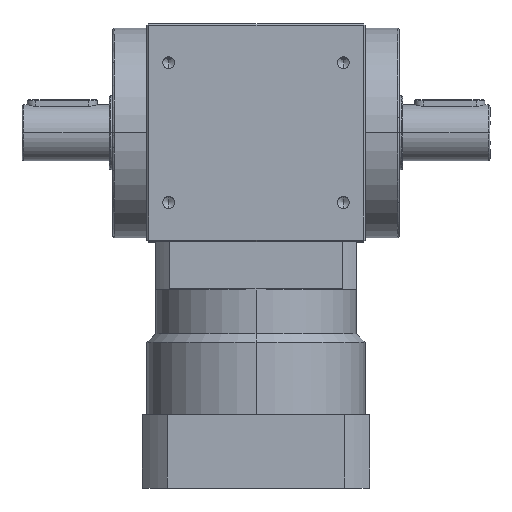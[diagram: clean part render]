
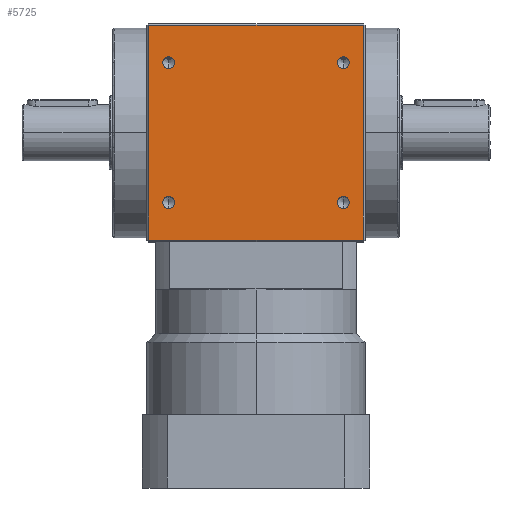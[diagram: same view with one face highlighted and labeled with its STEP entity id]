
A CAD part, top view. The second image highlights one B-rep face of the part: STEP entity #5725.
In plain terms, the highlighted planar face has unit normal (0, 0, 1).
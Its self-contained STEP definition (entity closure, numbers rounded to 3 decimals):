
#146 = CARTESIAN_POINT ( 'NONE',  ( -61.5, 0., 62.5 ) ) ;
#244 = EDGE_LOOP ( 'NONE', ( #6701, #7083 ) ) ;
#269 = VECTOR ( 'NONE', #3131, 1000. ) ;
#340 = AXIS2_PLACEMENT_3D ( 'NONE', #2649, #6945, #1886 ) ;
#757 = VERTEX_POINT ( 'NONE', #3047 ) ;
#848 = EDGE_CURVE ( 'NONE', #8067, #757, #3989, .T. ) ;
#1107 = FACE_OUTER_BOUND ( 'NONE', #7711, .T. ) ;
#1326 = VERTEX_POINT ( 'NONE', #9213 ) ;
#1429 = ORIENTED_EDGE ( 'NONE', *, *, #9268, .F. ) ;
#1431 = DIRECTION ( 'NONE',  ( 0., 0., -1. ) ) ;
#1488 = CIRCLE ( 'NONE', #8791, 3.4 ) ;
#1585 = AXIS2_PLACEMENT_3D ( 'NONE', #5110, #9271, #4406 ) ;
#1756 = EDGE_CURVE ( 'NONE', #6692, #8302, #1777, .T. ) ;
#1777 = LINE ( 'NONE', #6120, #9119 ) ;
#1886 = DIRECTION ( 'NONE',  ( 0., -1., 0. ) ) ;
#1898 = EDGE_CURVE ( 'NONE', #6298, #8146, #3313, .T. ) ;
#2010 = AXIS2_PLACEMENT_3D ( 'NONE', #2126, #2124, #2115 ) ;
#2115 = DIRECTION ( 'NONE',  ( 0., -1., 0. ) ) ;
#2124 = DIRECTION ( 'NONE',  ( 0., 0., -1. ) ) ;
#2126 = CARTESIAN_POINT ( 'NONE',  ( 50., 40., 62.5 ) ) ;
#2135 = CARTESIAN_POINT ( 'NONE',  ( -61.5, 61.5, 62.5 ) ) ;
#2142 = ORIENTED_EDGE ( 'NONE', *, *, #9168, .T. ) ;
#2182 = ORIENTED_EDGE ( 'NONE', *, *, #5234, .F. ) ;
#2279 = LINE ( 'NONE', #2399, #269 ) ;
#2345 = ORIENTED_EDGE ( 'NONE', *, *, #848, .T. ) ;
#2388 = DIRECTION ( 'NONE',  ( 0., -1., 0. ) ) ;
#2399 = CARTESIAN_POINT ( 'NONE',  ( 0., -61.5, 62.5 ) ) ;
#2463 = EDGE_CURVE ( 'NONE', #8146, #6298, #4850, .T. ) ;
#2500 = AXIS2_PLACEMENT_3D ( 'NONE', #4667, #8866, #3975 ) ;
#2649 = CARTESIAN_POINT ( 'NONE',  ( -50., 40., 62.5 ) ) ;
#2824 = CARTESIAN_POINT ( 'NONE',  ( -50., -43.4, 62.5 ) ) ;
#3047 = CARTESIAN_POINT ( 'NONE',  ( 50., 36.6, 62.5 ) ) ;
#3123 = FACE_BOUND ( 'NONE', #9130, .T. ) ;
#3124 = ORIENTED_EDGE ( 'NONE', *, *, #5931, .F. ) ;
#3131 = DIRECTION ( 'NONE',  ( -1., 0., 0. ) ) ;
#3149 = CARTESIAN_POINT ( 'NONE',  ( 50., 40., 62.5 ) ) ;
#3268 = CARTESIAN_POINT ( 'NONE',  ( 50., -36.6, 62.5 ) ) ;
#3281 = VERTEX_POINT ( 'NONE', #7762 ) ;
#3313 = CIRCLE ( 'NONE', #8361, 3.4 ) ;
#3383 = AXIS2_PLACEMENT_3D ( 'NONE', #3558, #8485, #4278 ) ;
#3428 = DIRECTION ( 'NONE',  ( -1., 0., 0. ) ) ;
#3558 = CARTESIAN_POINT ( 'NONE',  ( -50., -40., 62.5 ) ) ;
#3684 = CIRCLE ( 'NONE', #340, 3.4 ) ;
#3863 = CARTESIAN_POINT ( 'NONE',  ( -61.5, -61.5, 62.5 ) ) ;
#3895 = DIRECTION ( 'NONE',  ( 0., 1., 0. ) ) ;
#3975 = DIRECTION ( 'NONE',  ( -1., 0., 0. ) ) ;
#3989 = CIRCLE ( 'NONE', #2010, 3.4 ) ;
#4023 = DIRECTION ( 'NONE',  ( 0., -1., 0. ) ) ;
#4064 = DIRECTION ( 'NONE',  ( 0., -1., 0. ) ) ;
#4065 = DIRECTION ( 'NONE',  ( 0., 0., 1. ) ) ;
#4073 = CARTESIAN_POINT ( 'NONE',  ( 50., -40., 62.5 ) ) ;
#4273 = CIRCLE ( 'NONE', #3383, 3.4 ) ;
#4278 = DIRECTION ( 'NONE',  ( 0., -1., 0. ) ) ;
#4313 = EDGE_CURVE ( 'NONE', #757, #8067, #1488, .T. ) ;
#4406 = DIRECTION ( 'NONE',  ( 0., -1., 0. ) ) ;
#4472 = VERTEX_POINT ( 'NONE', #2824 ) ;
#4667 = CARTESIAN_POINT ( 'NONE',  ( 0., 0., 62.5 ) ) ;
#4696 = EDGE_CURVE ( 'NONE', #4472, #3281, #4273, .T. ) ;
#4823 = VERTEX_POINT ( 'NONE', #2135 ) ;
#4850 = CIRCLE ( 'NONE', #8332, 3.4 ) ;
#5025 = FACE_BOUND ( 'NONE', #7139, .T. ) ;
#5110 = CARTESIAN_POINT ( 'NONE',  ( -50., -40., 62.5 ) ) ;
#5233 = VERTEX_POINT ( 'NONE', #3863 ) ;
#5234 = EDGE_CURVE ( 'NONE', #8302, #5233, #2279, .T. ) ;
#5241 = CARTESIAN_POINT ( 'NONE',  ( 50., 43.4, 62.5 ) ) ;
#5313 = ORIENTED_EDGE ( 'NONE', *, *, #4313, .T. ) ;
#5460 = ORIENTED_EDGE ( 'NONE', *, *, #1756, .F. ) ;
#5474 = CARTESIAN_POINT ( 'NONE',  ( 61.5, 61.5, 62.5 ) ) ;
#5508 = CARTESIAN_POINT ( 'NONE',  ( -50., 43.4, 62.5 ) ) ;
#5556 = LINE ( 'NONE', #9014, #9240 ) ;
#5614 = EDGE_CURVE ( 'NONE', #1326, #8001, #3684, .T. ) ;
#5654 = EDGE_CURVE ( 'NONE', #6692, #4823, #5556, .T. ) ;
#5681 = ORIENTED_EDGE ( 'NONE', *, *, #5654, .T. ) ;
#5725 = ADVANCED_FACE ( 'NONE', ( #8745, #6922, #3123, #5025, #1107 ), #8922, .F. ) ;
#5825 = CARTESIAN_POINT ( 'NONE',  ( -50., 40., 62.5 ) ) ;
#5931 = EDGE_CURVE ( 'NONE', #3281, #4472, #8841, .T. ) ;
#6120 = CARTESIAN_POINT ( 'NONE',  ( 61.5, 0., 62.5 ) ) ;
#6298 = VERTEX_POINT ( 'NONE', #9042 ) ;
#6378 = ORIENTED_EDGE ( 'NONE', *, *, #5614, .T. ) ;
#6440 = EDGE_LOOP ( 'NONE', ( #8751, #3124 ) ) ;
#6527 = DIRECTION ( 'NONE',  ( 0., -1., 0. ) ) ;
#6595 = CIRCLE ( 'NONE', #7888, 3.4 ) ;
#6692 = VERTEX_POINT ( 'NONE', #5474 ) ;
#6701 = ORIENTED_EDGE ( 'NONE', *, *, #1898, .F. ) ;
#6709 = LINE ( 'NONE', #146, #8349 ) ;
#6887 = CARTESIAN_POINT ( 'NONE',  ( 61.5, -61.5, 62.5 ) ) ;
#6922 = FACE_BOUND ( 'NONE', #6440, .T. ) ;
#6945 = DIRECTION ( 'NONE',  ( 0., 0., -1. ) ) ;
#7083 = ORIENTED_EDGE ( 'NONE', *, *, #2463, .F. ) ;
#7139 = EDGE_LOOP ( 'NONE', ( #6378, #2142 ) ) ;
#7430 = DIRECTION ( 'NONE',  ( 0., 0., -1. ) ) ;
#7711 = EDGE_LOOP ( 'NONE', ( #2182, #5460, #5681, #1429 ) ) ;
#7762 = CARTESIAN_POINT ( 'NONE',  ( -50., -36.6, 62.5 ) ) ;
#7888 = AXIS2_PLACEMENT_3D ( 'NONE', #5825, #1431, #6527 ) ;
#8001 = VERTEX_POINT ( 'NONE', #5508 ) ;
#8067 = VERTEX_POINT ( 'NONE', #5241 ) ;
#8146 = VERTEX_POINT ( 'NONE', #3268 ) ;
#8302 = VERTEX_POINT ( 'NONE', #6887 ) ;
#8332 = AXIS2_PLACEMENT_3D ( 'NONE', #4073, #4065, #4064 ) ;
#8349 = VECTOR ( 'NONE', #3895, 1000. ) ;
#8361 = AXIS2_PLACEMENT_3D ( 'NONE', #8828, #8793, #8778 ) ;
#8485 = DIRECTION ( 'NONE',  ( 0., 0., 1. ) ) ;
#8745 = FACE_BOUND ( 'NONE', #244, .T. ) ;
#8751 = ORIENTED_EDGE ( 'NONE', *, *, #4696, .F. ) ;
#8778 = DIRECTION ( 'NONE',  ( 0., -1., 0. ) ) ;
#8791 = AXIS2_PLACEMENT_3D ( 'NONE', #3149, #7430, #2388 ) ;
#8793 = DIRECTION ( 'NONE',  ( 0., 0., 1. ) ) ;
#8828 = CARTESIAN_POINT ( 'NONE',  ( 50., -40., 62.5 ) ) ;
#8841 = CIRCLE ( 'NONE', #1585, 3.4 ) ;
#8866 = DIRECTION ( 'NONE',  ( 0., 0., -1. ) ) ;
#8922 = PLANE ( 'NONE',  #2500 ) ;
#9014 = CARTESIAN_POINT ( 'NONE',  ( 0., 61.5, 62.5 ) ) ;
#9042 = CARTESIAN_POINT ( 'NONE',  ( 50., -43.4, 62.5 ) ) ;
#9119 = VECTOR ( 'NONE', #4023, 1000. ) ;
#9130 = EDGE_LOOP ( 'NONE', ( #5313, #2345 ) ) ;
#9168 = EDGE_CURVE ( 'NONE', #8001, #1326, #6595, .T. ) ;
#9213 = CARTESIAN_POINT ( 'NONE',  ( -50., 36.6, 62.5 ) ) ;
#9240 = VECTOR ( 'NONE', #3428, 1000. ) ;
#9268 = EDGE_CURVE ( 'NONE', #5233, #4823, #6709, .T. ) ;
#9271 = DIRECTION ( 'NONE',  ( 0., 0., 1. ) ) ;
